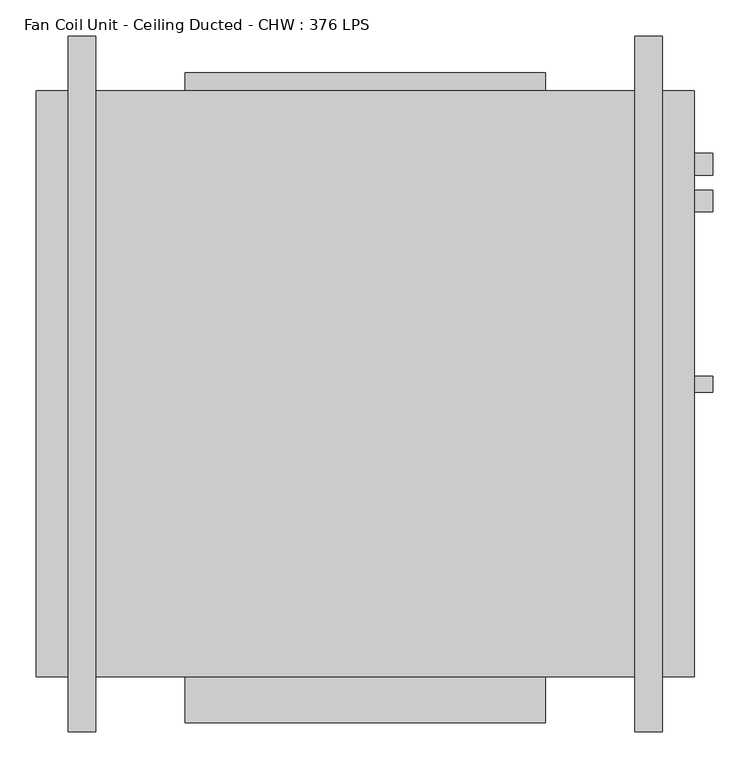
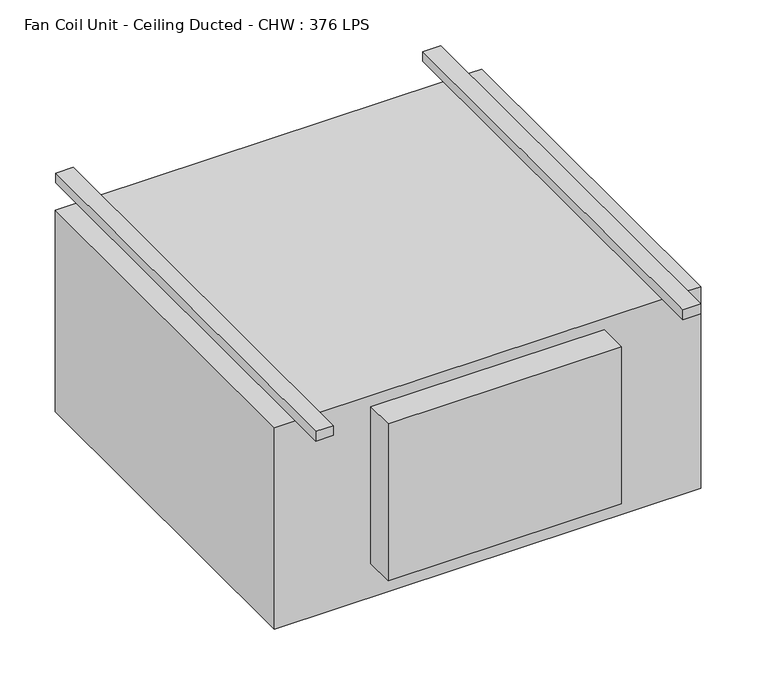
"""IFC4 building model written with IfcOpenShell, lengths in millimetres: proxy geometry, Fan Coil Unit - Ceiling Ducted - CHW : 376 LPS."""

from ifc_helpers import new_model, si_unit, frame, origin, place, context, project, spatial, circle_curve, source, transform, mapped, element, save
from ifc_brep_helpers import plane_surface, cylinder_surface, advanced_brep


def fan_coil_unit_ceiling_ducted_chw_376_lps_d7d55c98(model_context):
    return source(origin(), model_context, "Body", "AdvancedBrep", [
        advanced_brep(
        [(82.55, -889.0, 479.425), (82.55, 76.2, 479.425), (44.45, 76.2, 479.425), (44.45, -889.0, 479.425), (82.55, 76.2, 457.2), (82.55, 0.0, 457.2), (44.45, 0.0, 457.2), (44.45, 76.2, 457.2), (44.45, -889.0, 457.2), (44.45, -812.8, 457.2), (82.55, -812.8, 457.2), (82.55, -889.0, 457.2), (869.55, -889.0, 479.425), (869.55, 76.2, 479.425), (831.45, 76.2, 479.425), (831.45, -889.0, 479.425), (869.55, 76.2, 457.2), (869.55, 0.0, 457.2), (831.45, 0.0, 457.2), (831.45, 76.2, 457.2), (831.45, -889.0, 457.2), (831.45, -812.8, 457.2), (869.55, -812.8, 457.2), (869.55, -889.0, 457.2), (939.4, -137.4, 381.0), (939.4, -167.4, 381.0), (914.0, -167.4, 381.0), (914.0, -137.4, 381.0), (939.4, -86.6, 101.6), (939.4, -116.6, 101.6), (914.0, -116.6, 101.6), (914.0, -86.6, 101.6), (939.4, -395.2875, 38.1), (939.4, -417.5125, 38.1), (914.0, -417.5125, 38.1), (914.0, -395.2875, 38.1), (0.0, -812.8, 457.2), (0.0, 0.0, 457.2), (914.0, 0.0, 457.2), (914.0, -812.8, 457.2), (914.0, -812.8, 0.0), (0.0, -812.8, 0.0), (0.0, 0.0, 0.0), (914.0, 0.0, 0.0), (707.0, -812.8, 431.8), (707.0, -812.8, 76.2), (207.0, -812.8, 76.2), (207.0, -812.8, 431.8), (207.0, 0.0, 431.8), (207.0, 0.0, 76.2), (707.0, 0.0, 76.2), (707.0, 0.0, 431.8), (707.0, -876.3, 431.8), (207.0, -876.3, 431.8), (707.0, -876.3, 76.2), (207.0, -876.3, 76.2), (707.0, 25.4, 431.8), (207.0, 25.4, 431.8), (207.0, 25.4, 76.2), (707.0, 25.4, 76.2)],
        [
            (0, 1),
            (1, 2),
            (2, 3),
            (3, 0),
            (4, 5),
            (5, 6),
            (6, 7),
            (7, 4),
            (8, 9),
            (9, 10),
            (10, 11),
            (11, 8),
            (3, 8),
            (11, 0),
            (2, 7),
            (6, 9),
            (1, 4),
            (10, 5),
            (12, 13),
            (13, 14),
            (14, 15),
            (15, 12),
            (16, 17),
            (17, 18),
            (18, 19),
            (19, 16),
            (20, 21),
            (21, 22),
            (22, 23),
            (23, 20),
            (15, 20),
            (23, 12),
            (14, 19),
            (18, 21),
            (13, 16),
            (22, 17),
            (24, 25, circle_curve(frame((939.4, -152.4, 381.0), z_axis=(1.0, 0.0, 0.0), x_axis=(0.0, -1.0, 0.0)), 15.0)),
            (25, 24, circle_curve(frame((939.4, -152.4, 381.0), z_axis=(1.0, 0.0, 0.0), x_axis=(0.0, -1.0, 0.0)), 15.0)),
            (25, 26),
            (26, 27, circle_curve(frame((914.0, -152.4, 381.0), z_axis=(1.0, 0.0, 0.0), x_axis=(0.0, -1.0, 0.0)), 15.0)),
            (27, 24),
            (27, 26, circle_curve(frame((914.0, -152.4, 381.0), z_axis=(1.0, 0.0, 0.0), x_axis=(0.0, -1.0, 0.0)), 15.0)),
            (28, 29, circle_curve(frame((939.4, -101.6, 101.6), z_axis=(1.0, 0.0, 0.0), x_axis=(0.0, -1.0, 0.0)), 15.0)),
            (29, 28, circle_curve(frame((939.4, -101.6, 101.6), z_axis=(1.0, 0.0, 0.0), x_axis=(0.0, -1.0, 0.0)), 15.0)),
            (29, 30),
            (30, 31, circle_curve(frame((914.0, -101.6, 101.6), z_axis=(1.0, 0.0, 0.0), x_axis=(0.0, -1.0, 0.0)), 15.0)),
            (31, 28),
            (31, 30, circle_curve(frame((914.0, -101.6, 101.6), z_axis=(1.0, 0.0, 0.0), x_axis=(0.0, -1.0, 0.0)), 15.0)),
            (32, 33, circle_curve(frame((939.4, -406.4, 38.1), z_axis=(1.0, 0.0, 0.0), x_axis=(0.0, -1.0, 0.0)), 11.1125)),
            (33, 32, circle_curve(frame((939.4, -406.4, 38.1), z_axis=(1.0, 0.0, 0.0), x_axis=(0.0, -1.0, 0.0)), 11.1125)),
            (33, 34),
            (34, 35, circle_curve(frame((914.0, -406.4, 38.1), z_axis=(1.0, 0.0, 0.0), x_axis=(0.0, -1.0, 0.0)), 11.1125)),
            (35, 32),
            (35, 34, circle_curve(frame((914.0, -406.4, 38.1), z_axis=(1.0, 0.0, 0.0), x_axis=(0.0, -1.0, 0.0)), 11.1125)),
            (18, 5),
            (10, 21),
            (36, 9),
            (6, 37),
            (37, 36),
            (38, 17),
            (22, 39),
            (39, 38),
            (40, 41),
            (41, 42),
            (42, 43),
            (43, 40),
            (40, 39),
            (36, 41),
            (44, 45),
            (45, 46),
            (46, 47),
            (47, 44),
            (37, 42),
            (38, 43),
            (48, 49),
            (49, 50),
            (50, 51),
            (51, 48),
            (52, 44),
            (47, 53),
            (53, 52),
            (54, 55),
            (55, 46),
            (45, 54),
            (53, 55),
            (54, 52),
            (51, 56),
            (56, 57),
            (57, 48),
            (49, 58),
            (58, 59),
            (59, 50),
            (57, 58),
            (56, 59),
        ],
        [
            plane_surface(frame((44.45, -889.0, 479.425), z_axis=(0.0, 0.0, 1.0), x_axis=(-1.0, 0.0, 0.0))),
            plane_surface(frame((44.45, -889.0, 457.2), z_axis=(0.0, 0.0, -1.0), x_axis=(1.0, 0.0, 0.0))),
            plane_surface(frame((82.55, -889.0, 479.425), z_axis=(0.0, -1.0, 0.0), x_axis=(0.0, 0.0, -1.0))),
            plane_surface(frame((44.45, -889.0, 479.425), z_axis=(-1.0, 0.0, 0.0), x_axis=(0.0, 0.0, -1.0))),
            plane_surface(frame((44.45, 76.2, 479.425), z_axis=(0.0, 1.0, 0.0), x_axis=(0.0, 0.0, -1.0))),
            plane_surface(frame((82.55, 76.2, 479.425), z_axis=(1.0, 0.0, 0.0), x_axis=(0.0, 0.0, -1.0))),
            plane_surface(frame((831.45, -889.0, 479.425), z_axis=(0.0, 0.0, 1.0), x_axis=(-1.0, 0.0, 0.0))),
            plane_surface(frame((831.45, -889.0, 457.2), z_axis=(0.0, 0.0, -1.0), x_axis=(1.0, 0.0, 0.0))),
            plane_surface(frame((869.55, -889.0, 479.425), z_axis=(0.0, -1.0, 0.0), x_axis=(0.0, 0.0, -1.0))),
            plane_surface(frame((831.45, -889.0, 479.425), z_axis=(-1.0, 0.0, 0.0), x_axis=(0.0, 0.0, -1.0))),
            plane_surface(frame((831.45, 76.2, 479.425), z_axis=(0.0, 1.0, 0.0), x_axis=(0.0, 0.0, -1.0))),
            plane_surface(frame((869.55, 76.2, 479.425), z_axis=(1.0, 0.0, 0.0), x_axis=(0.0, 0.0, -1.0))),
            plane_surface(frame((939.4, -167.4, 381.0), z_axis=(1.0, 0.0, 0.0), x_axis=(0.0, 0.0, 1.0))),
            cylinder_surface(frame((914.0, -152.4, 381.0), z_axis=(1.0, 0.0, 0.0), x_axis=(0.0, -1.0, 0.0)), 15.0),
            plane_surface(frame((939.4, -116.6, 101.6), z_axis=(1.0, 0.0, 0.0), x_axis=(0.0, 0.0, 1.0))),
            cylinder_surface(frame((914.0, -101.6, 101.6), z_axis=(1.0, 0.0, 0.0), x_axis=(0.0, -1.0, 0.0)), 15.0),
            plane_surface(frame((939.4, -417.5125, 38.1), z_axis=(1.0, 0.0, 0.0), x_axis=(0.0, 0.0, 1.0))),
            cylinder_surface(frame((914.0, -406.4, 38.1), z_axis=(1.0, 0.0, 0.0), x_axis=(0.0, -1.0, 0.0)), 11.1125),
            plane_surface(frame((0.0, -812.8, 457.2), z_axis=(0.0, 0.0, 1.0), x_axis=(-1.0, 0.0, 0.0))),
            plane_surface(frame((0.0, -812.8, 0.0), z_axis=(0.0, 0.0, -1.0), x_axis=(1.0, 0.0, 0.0))),
            plane_surface(frame((914.0, -812.8, 457.2), z_axis=(0.0, -1.0, 0.0), x_axis=(0.0, 0.0, -1.0))),
            plane_surface(frame((0.0, -812.8, 457.2), z_axis=(-1.0, 0.0, 0.0), x_axis=(0.0, 0.0, -1.0))),
            plane_surface(frame((0.0, 0.0, 457.2), z_axis=(0.0, 1.0, 0.0), x_axis=(0.0, 0.0, -1.0))),
            plane_surface(frame((914.0, 0.0, 457.2), z_axis=(1.0, 0.0, 0.0), x_axis=(0.0, 0.0, -1.0))),
            plane_surface(frame((207.0, -876.3, 431.8), z_axis=(0.0, 0.0, 1.0), x_axis=(-1.0, 0.0, 0.0))),
            plane_surface(frame((207.0, -876.3, 76.2), z_axis=(0.0, 0.0, -1.0), x_axis=(1.0, 0.0, 0.0))),
            plane_surface(frame((707.0, -876.3, 431.8), z_axis=(0.0, -1.0, 0.0), x_axis=(0.0, 0.0, -1.0))),
            plane_surface(frame((207.0, -876.3, 431.8), z_axis=(-1.0, 0.0, 0.0), x_axis=(0.0, 0.0, -1.0))),
            plane_surface(frame((707.0, -812.8, 431.8), z_axis=(1.0, 0.0, 0.0), x_axis=(0.0, 0.0, -1.0))),
            plane_surface(frame((207.0, 0.0, 431.8), z_axis=(0.0, 0.0, 1.0), x_axis=(-1.0, 0.0, 0.0))),
            plane_surface(frame((207.0, 0.0, 76.2), z_axis=(0.0, 0.0, -1.0), x_axis=(1.0, 0.0, 0.0))),
            plane_surface(frame((207.0, 0.0, 431.8), z_axis=(-1.0, 0.0, 0.0), x_axis=(0.0, 0.0, -1.0))),
            plane_surface(frame((207.0, 25.4, 431.8), z_axis=(0.0, 1.0, 0.0), x_axis=(0.0, 0.0, -1.0))),
            plane_surface(frame((707.0, 25.4, 431.8), z_axis=(1.0, 0.0, 0.0), x_axis=(0.0, 0.0, -1.0))),
        ],
        [
            (0, [[1, 2, 3, 4]]),
            (1, [[5, 6, 7, 8]]),
            (1, [[9, 10, 11, 12]]),
            (2, [[13, -12, 14, -4]]),
            (3, [[15, -7, 16, -9, -13, -3]]),
            (4, [[17, -8, -15, -2]]),
            (5, [[-14, -11, 18, -5, -17, -1]]),
            (6, [[19, 20, 21, 22]]),
            (7, [[23, 24, 25, 26]]),
            (7, [[27, 28, 29, 30]]),
            (8, [[31, -30, 32, -22]]),
            (9, [[33, -25, 34, -27, -31, -21]]),
            (10, [[35, -26, -33, -20]]),
            (11, [[-32, -29, 36, -23, -35, -19]]),
            (12, [[37, 38]]),
            (13, [[39, 40, 41, -38]]),
            (13, [[-41, 42, -39, -37]]),
            (14, [[43, 44]]),
            (15, [[45, 46, 47, -44]]),
            (15, [[-47, 48, -45, -43]]),
            (16, [[49, 50]]),
            (17, [[51, 52, 53, -50]]),
            (17, [[-53, 54, -51, -49]]),
            (18, [[-34, 55, -18, 56]]),
            (18, [[57, -16, 58, 59]]),
            (18, [[60, -36, 61, 62]]),
            (19, [[63, 64, 65, 66]]),
            (20, [[67, -61, -28, -56, -10, -57, 68, -63], [69, 70, 71, 72]]),
            (21, [[73, -64, -68, -59]]),
            (22, [[-73, -58, -6, -55, -24, -60, 74, -65], [75, 76, 77, 78]]),
            (23, [[-67, -66, -74, -62], [-42, -40], [-48, -46], [-54, -52]]),
            (24, [[79, -72, 80, 81]]),
            (25, [[82, 83, -70, 84]]),
            (26, [[85, -82, 86, -81]]),
            (27, [[-71, -83, -85, -80]]),
            (28, [[-86, -84, -69, -79]]),
            (29, [[-78, 87, 88, 89]]),
            (30, [[-76, 90, 91, 92]]),
            (31, [[93, -90, -75, -89]]),
            (32, [[94, -91, -93, -88]]),
            (33, [[-77, -92, -94, -87]]),
        ],
    ),
    ])


if __name__ == "__main__":
    model = new_model("IFC4")
    model_context = context("Model", 3, world=origin())
    ifc_project = project(units=[si_unit("LENGTHUNIT", "METRE", prefix="MILLI")], contexts=[model_context])
    site = spatial("IfcSite", under=ifc_project)
    building = spatial("IfcBuilding", under=site)
    placement = place(None, origin())
    fan_coil_unit_ceiling_ducted_chw_376_lps_shape = fan_coil_unit_ceiling_ducted_chw_376_lps_d7d55c98(model_context)
    element("IfcBuildingElementProxy", 1, Name="Fan Coil Unit - Ceiling Ducted - CHW : 376 LPS", ObjectType="Fan Coil Unit - Ceiling Ducted - CHW : 376 LPS", at=placement, inside=building, context=model_context, shape_type="MappedRepresentation", body=[
        mapped(fan_coil_unit_ceiling_ducted_chw_376_lps_shape, transform((0.0, 0.0, 0.0), x_axis=(1.0, 0.0, 0.0), y_axis=(0.0, 1.0, 0.0), z_axis=(0.0, 0.0, 1.0))),
    ])
    save(model, "model.ifc")
